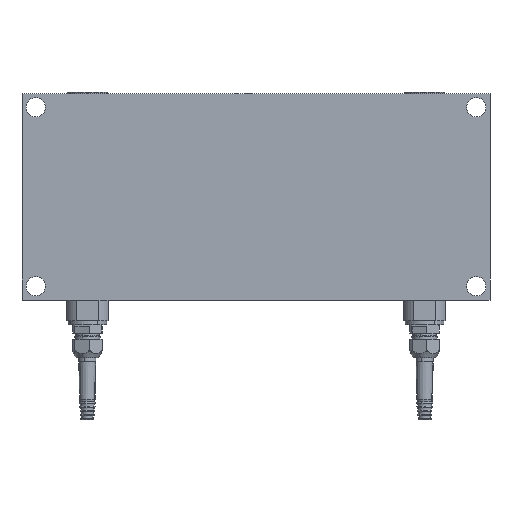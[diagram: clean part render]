
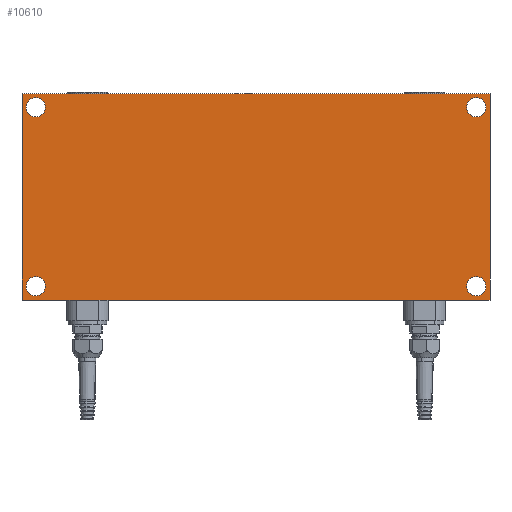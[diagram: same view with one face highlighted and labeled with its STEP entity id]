
A CAD part, front view. The second image highlights one B-rep face of the part: STEP entity #10610.
In plain terms, the highlighted planar face has unit normal (0, -1, 0).
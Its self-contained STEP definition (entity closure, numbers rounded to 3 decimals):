
#88 = DIRECTION ( 'NONE',  ( 0., 0., 1. ) ) ;
#196 = DIRECTION ( 'NONE',  ( 0., 1., 0. ) ) ;
#227 = DIRECTION ( 'NONE',  ( 0., 1., 0. ) ) ;
#230 = CARTESIAN_POINT ( 'NONE',  ( -160., 0., 65. ) ) ;
#507 = CIRCLE ( 'NONE', #19165, 7. ) ;
#878 = ORIENTED_EDGE ( 'NONE', *, *, #1733, .T. ) ;
#1024 = AXIS2_PLACEMENT_3D ( 'NONE', #6634, #31913, #14350 ) ;
#1307 = CARTESIAN_POINT ( 'NONE',  ( -170., 0., 75. ) ) ;
#1382 = CARTESIAN_POINT ( 'NONE',  ( -160., 0., 72. ) ) ;
#1434 = VECTOR ( 'NONE', #11478, 1000. ) ;
#1720 = ORIENTED_EDGE ( 'NONE', *, *, #20679, .F. ) ;
#1733 = EDGE_CURVE ( 'NONE', #15140, #8823, #14737, .T. ) ;
#2475 = AXIS2_PLACEMENT_3D ( 'NONE', #13258, #227, #10405 ) ;
#2734 = DIRECTION ( 'NONE',  ( 0., 1., 0. ) ) ;
#2779 = EDGE_CURVE ( 'NONE', #23841, #17090, #28091, .T. ) ;
#4054 = DIRECTION ( 'NONE',  ( 0., 1., 0. ) ) ;
#5203 = CARTESIAN_POINT ( 'NONE',  ( 160., 0., 72. ) ) ;
#5222 = AXIS2_PLACEMENT_3D ( 'NONE', #22261, #19769, #17111 ) ;
#5736 = DIRECTION ( 'NONE',  ( 0., 0., 1. ) ) ;
#6119 = DIRECTION ( 'NONE',  ( 0., -1., 0. ) ) ;
#6161 = CARTESIAN_POINT ( 'NONE',  ( -170., 0., 75. ) ) ;
#6634 = CARTESIAN_POINT ( 'NONE',  ( -160., 0., 65. ) ) ;
#6755 = EDGE_CURVE ( 'NONE', #30797, #14818, #507, .T. ) ;
#7102 = VERTEX_POINT ( 'NONE', #8237 ) ;
#8237 = CARTESIAN_POINT ( 'NONE',  ( -170., 0., -75. ) ) ;
#8475 = LINE ( 'NONE', #21503, #13886 ) ;
#8734 = CARTESIAN_POINT ( 'NONE',  ( 170., 0., -75. ) ) ;
#8779 = FACE_BOUND ( 'NONE', #13615, .T. ) ;
#8823 = VERTEX_POINT ( 'NONE', #10768 ) ;
#8954 = FACE_BOUND ( 'NONE', #13820, .T. ) ;
#9043 = VERTEX_POINT ( 'NONE', #8734 ) ;
#9829 = ORIENTED_EDGE ( 'NONE', *, *, #32865, .T. ) ;
#9923 = AXIS2_PLACEMENT_3D ( 'NONE', #16257, #20590, #5736 ) ;
#10230 = VERTEX_POINT ( 'NONE', #6161 ) ;
#10405 = DIRECTION ( 'NONE',  ( 0., 0., 1. ) ) ;
#10416 = EDGE_CURVE ( 'NONE', #18407, #9043, #19520, .T. ) ;
#10459 = DIRECTION ( 'NONE',  ( 0., 1., 0. ) ) ;
#10610 = ADVANCED_FACE ( 'NONE', ( #8954, #8779, #16161, #10966, #16658 ), #26508, .T. ) ;
#10768 = CARTESIAN_POINT ( 'NONE',  ( -160., 0., -72. ) ) ;
#10966 = FACE_BOUND ( 'NONE', #27284, .T. ) ;
#11478 = DIRECTION ( 'NONE',  ( 1., 0., 0. ) ) ;
#12233 = AXIS2_PLACEMENT_3D ( 'NONE', #32458, #4054, #17236 ) ;
#12500 = CARTESIAN_POINT ( 'NONE',  ( 170., 0., 75. ) ) ;
#12694 = EDGE_CURVE ( 'NONE', #8823, #15140, #24611, .T. ) ;
#13258 = CARTESIAN_POINT ( 'NONE',  ( 160., 0., 65. ) ) ;
#13615 = EDGE_LOOP ( 'NONE', ( #26214, #24827 ) ) ;
#13820 = EDGE_LOOP ( 'NONE', ( #26496, #15757 ) ) ;
#13886 = VECTOR ( 'NONE', #26362, 1000. ) ;
#14350 = DIRECTION ( 'NONE',  ( 0., 0., 1. ) ) ;
#14737 = CIRCLE ( 'NONE', #9923, 7. ) ;
#14818 = VERTEX_POINT ( 'NONE', #21480 ) ;
#15129 = LINE ( 'NONE', #25308, #23887 ) ;
#15140 = VERTEX_POINT ( 'NONE', #33025 ) ;
#15393 = CARTESIAN_POINT ( 'NONE',  ( -160., 0., -65. ) ) ;
#15425 = CIRCLE ( 'NONE', #1024, 7. ) ;
#15562 = AXIS2_PLACEMENT_3D ( 'NONE', #21325, #6119, #26189 ) ;
#15757 = ORIENTED_EDGE ( 'NONE', *, *, #17149, .T. ) ;
#16123 = EDGE_CURVE ( 'NONE', #9043, #7102, #8475, .T. ) ;
#16153 = VECTOR ( 'NONE', #32901, 1000. ) ;
#16161 = FACE_BOUND ( 'NONE', #23888, .T. ) ;
#16186 = CARTESIAN_POINT ( 'NONE',  ( -160., 0., 58. ) ) ;
#16257 = CARTESIAN_POINT ( 'NONE',  ( -160., 0., -65. ) ) ;
#16658 = FACE_OUTER_BOUND ( 'NONE', #31922, .T. ) ;
#16805 = VERTEX_POINT ( 'NONE', #5203 ) ;
#17090 = VERTEX_POINT ( 'NONE', #16186 ) ;
#17111 = DIRECTION ( 'NONE',  ( 0., 0., 1. ) ) ;
#17149 = EDGE_CURVE ( 'NONE', #17090, #23841, #15425, .T. ) ;
#17236 = DIRECTION ( 'NONE',  ( 0., 0., 1. ) ) ;
#18160 = DIRECTION ( 'NONE',  ( 0., 0., 1. ) ) ;
#18407 = VERTEX_POINT ( 'NONE', #12500 ) ;
#19165 = AXIS2_PLACEMENT_3D ( 'NONE', #25504, #10459, #18160 ) ;
#19520 = LINE ( 'NONE', #29897, #16153 ) ;
#19769 = DIRECTION ( 'NONE',  ( 0., 1., 0. ) ) ;
#20550 = DIRECTION ( 'NONE',  ( 0., 0., 1. ) ) ;
#20590 = DIRECTION ( 'NONE',  ( 0., 1., 0. ) ) ;
#20679 = EDGE_CURVE ( 'NONE', #10230, #18407, #24186, .T. ) ;
#20787 = CARTESIAN_POINT ( 'NONE',  ( 160., 0., 58. ) ) ;
#21325 = CARTESIAN_POINT ( 'NONE',  ( 0., 0., 0. ) ) ;
#21480 = CARTESIAN_POINT ( 'NONE',  ( 160., 0., -72. ) ) ;
#21503 = CARTESIAN_POINT ( 'NONE',  ( -170., 0., -75. ) ) ;
#22198 = CIRCLE ( 'NONE', #2475, 7. ) ;
#22261 = CARTESIAN_POINT ( 'NONE',  ( 160., 0., 65. ) ) ;
#22771 = AXIS2_PLACEMENT_3D ( 'NONE', #230, #2734, #30643 ) ;
#23409 = EDGE_CURVE ( 'NONE', #32334, #16805, #27619, .T. ) ;
#23434 = ORIENTED_EDGE ( 'NONE', *, *, #16123, .F. ) ;
#23841 = VERTEX_POINT ( 'NONE', #1382 ) ;
#23887 = VECTOR ( 'NONE', #88, 1000. ) ;
#23888 = EDGE_LOOP ( 'NONE', ( #30356, #9829 ) ) ;
#24186 = LINE ( 'NONE', #1307, #1434 ) ;
#24611 = CIRCLE ( 'NONE', #25127, 7. ) ;
#24827 = ORIENTED_EDGE ( 'NONE', *, *, #23409, .T. ) ;
#25127 = AXIS2_PLACEMENT_3D ( 'NONE', #15393, #196, #20550 ) ;
#25308 = CARTESIAN_POINT ( 'NONE',  ( -170., 0., 75. ) ) ;
#25504 = CARTESIAN_POINT ( 'NONE',  ( 160., 0., -65. ) ) ;
#26038 = ORIENTED_EDGE ( 'NONE', *, *, #12694, .T. ) ;
#26189 = DIRECTION ( 'NONE',  ( 0., 0., -1. ) ) ;
#26214 = ORIENTED_EDGE ( 'NONE', *, *, #29918, .T. ) ;
#26362 = DIRECTION ( 'NONE',  ( -1., 0., 0. ) ) ;
#26496 = ORIENTED_EDGE ( 'NONE', *, *, #2779, .T. ) ;
#26508 = PLANE ( 'NONE',  #15562 ) ;
#26547 = CARTESIAN_POINT ( 'NONE',  ( 160., 0., -58. ) ) ;
#27284 = EDGE_LOOP ( 'NONE', ( #878, #26038 ) ) ;
#27619 = CIRCLE ( 'NONE', #5222, 7. ) ;
#28091 = CIRCLE ( 'NONE', #22771, 7. ) ;
#29897 = CARTESIAN_POINT ( 'NONE',  ( 170., 0., 75. ) ) ;
#29918 = EDGE_CURVE ( 'NONE', #16805, #32334, #22198, .T. ) ;
#30356 = ORIENTED_EDGE ( 'NONE', *, *, #6755, .T. ) ;
#30643 = DIRECTION ( 'NONE',  ( 0., 0., 1. ) ) ;
#30797 = VERTEX_POINT ( 'NONE', #26547 ) ;
#30915 = CIRCLE ( 'NONE', #12233, 7. ) ;
#31249 = EDGE_CURVE ( 'NONE', #7102, #10230, #15129, .T. ) ;
#31597 = ORIENTED_EDGE ( 'NONE', *, *, #10416, .F. ) ;
#31913 = DIRECTION ( 'NONE',  ( 0., 1., 0. ) ) ;
#31922 = EDGE_LOOP ( 'NONE', ( #31597, #1720, #32911, #23434 ) ) ;
#32334 = VERTEX_POINT ( 'NONE', #20787 ) ;
#32458 = CARTESIAN_POINT ( 'NONE',  ( 160., 0., -65. ) ) ;
#32865 = EDGE_CURVE ( 'NONE', #14818, #30797, #30915, .T. ) ;
#32901 = DIRECTION ( 'NONE',  ( 0., 0., -1. ) ) ;
#32911 = ORIENTED_EDGE ( 'NONE', *, *, #31249, .F. ) ;
#33025 = CARTESIAN_POINT ( 'NONE',  ( -160., 0., -58. ) ) ;
